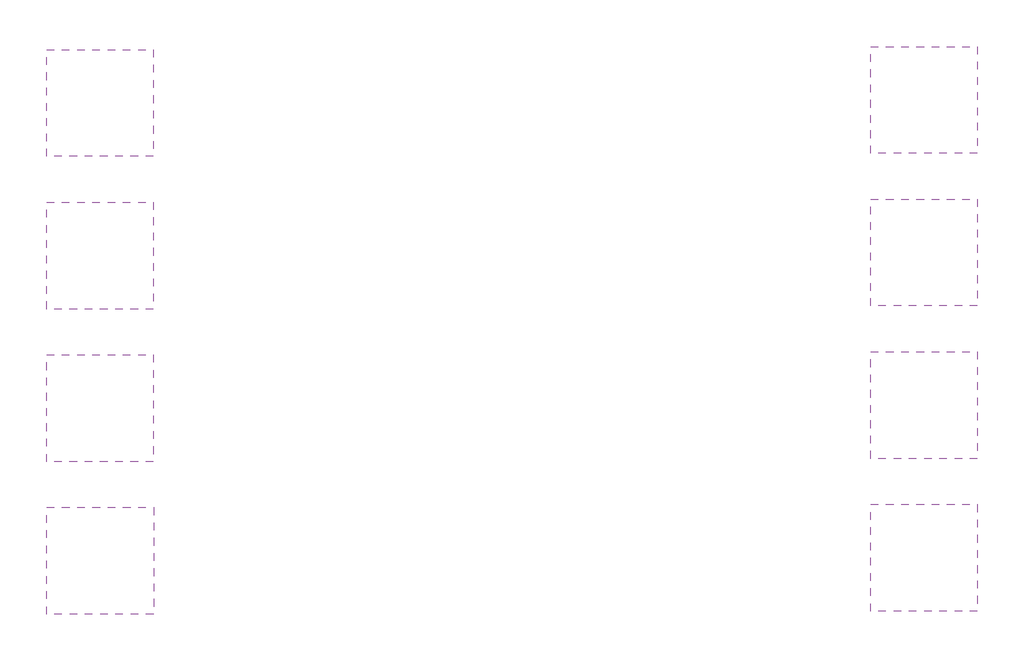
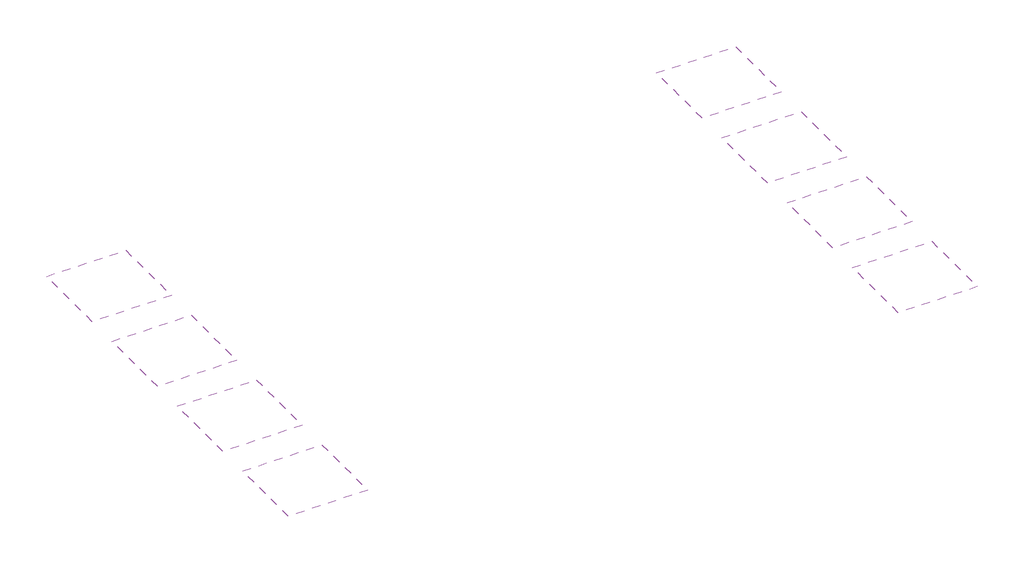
# One storey: 8 coverings.
"""IFC4 building model written with IfcOpenShell, lengths in millimetres."""

from ifc_helpers import new_model, si_unit, frame, origin, place, context, project, spatial, polyline, outline, extrude, element, save

model = new_model("IFC4")

# Units and contexts
model_context = context("Model", 3, world=origin())
ifc_project = project(units=[si_unit("LENGTHUNIT", "METRE", prefix="MILLI")], contexts=[model_context])

# Site, building, storey
site = spatial("IfcSite", under=ifc_project)
building = spatial("IfcBuilding", under=site)
storey = spatial("IfcBuildingStorey", under=building, Name="Gyptone Tile Series Edge B", Elevation=0.0)

# Coverings
placement = place(None, origin())
element("IfcCovering", 1, ObjectType="Gyptone Tile Base 31 (600mm x 600mm)", at=placement, inside=storey, context=model_context, shape_type="SweptSolid", body=[
    extrude(outline(polyline([(1488.7108797, 1750.6340483), (1488.7108797, -5249.3659517), (-5511.2891203, -5249.3659517), (-5511.2891203, 1750.6340483), (1488.7108797, 1750.6340483)])), frame((0.0, 0.0, 2600.0), z_axis=(0.0, 0.0, 1.0), x_axis=(1.0, 0.0, 0.0)), (0.0, 0.0, 1.0), 12.0),
])
element("IfcCovering", 2, ObjectType="Gyptone Tile Line 4 (600mm x 600mm)", at=placement, inside=storey, context=model_context, shape_type="SweptSolid", body=[
    extrude(outline(polyline([(1488.7108797, -8249.3659517), (1488.7108797, -15249.3659517), (-5511.2891203, -15249.3659517), (-5511.2891203, -8249.3659517), (1488.7108797, -8249.3659517)])), frame((0.0, 0.0, 2600.0), z_axis=(0.0, 0.0, 1.0), x_axis=(1.0, 0.0, 0.0)), (0.0, 0.0, 1.0), 12.5),
])
element("IfcCovering", 3, ObjectType="Gyptone Tile Point 11 (600mm x 600mm)", at=placement, inside=storey, context=model_context, shape_type="SweptSolid", body=[
    extrude(outline(polyline([(1488.7108797, -18249.3659517), (1488.7108797, -25249.3659517), (-5511.2891203, -25249.3659517), (-5511.2891203, -18249.3659517), (1488.7108797, -18249.3659517)])), frame((0.0, 0.0, 2600.0), z_axis=(0.0, 0.0, 1.0), x_axis=(1.0, 0.0, 0.0)), (0.0, 0.0, 1.0), 12.5),
])
element("IfcCovering", 4, ObjectType="Gyptone Tile Point 12 (600mm x 600mm)", at=placement, inside=storey, context=model_context, shape_type="SweptSolid", body=[
    extrude(outline(polyline([(1498.3314377, -28248.2011908), (1498.3314377, -35248.2011908), (-5501.6685623, -35248.2011908), (-5501.6685623, -28248.2011908), (1498.3314377, -28248.2011908)])), frame((0.0, 0.0, 2600.0), z_axis=(0.0, 0.0, 1.0), x_axis=(1.0, 0.0, 0.0)), (0.0, 0.0, 1.0), 12.5),
])
element("IfcCovering", 5, ObjectType="Gyptone Tile Sixto 60 (600mm x 600mm)", at=placement, inside=storey, context=model_context, shape_type="SweptSolid", body=[
    extrude(outline(polyline([(55488.7108797, 1950.6340483), (55488.7108797, -5049.3659517), (48488.7108797, -5049.3659517), (48488.7108797, 1950.6340483), (55488.7108797, 1950.6340483)])), frame((0.0, 0.0, 2600.0), z_axis=(0.0, 0.0, 1.0), x_axis=(1.0, 0.0, 0.0)), (0.0, 0.0, 1.0), 12.5),
])
element("IfcCovering", 6, ObjectType="Gyptone Tile Quattro 20 (600mm x 600mm)", at=placement, inside=storey, context=model_context, shape_type="SweptSolid", body=[
    extrude(outline(polyline([(55488.7108797, -8049.3659517), (55488.7108797, -15049.3659517), (48488.7108797, -15049.3659517), (48488.7108797, -8049.3659517), (55488.7108797, -8049.3659517)])), frame((0.0, 0.0, 2600.0), z_axis=(0.0, 0.0, 1.0), x_axis=(1.0, 0.0, 0.0)), (0.0, 0.0, 1.0), 12.5),
])
element("IfcCovering", 7, ObjectType="Gyptone Tile Quattro 22 (600mm x 600mm)", at=placement, inside=storey, context=model_context, shape_type="SweptSolid", body=[
    extrude(outline(polyline([(55488.7108797, -18049.3659517), (55488.7108797, -25049.3659517), (48488.7108797, -25049.3659517), (48488.7108797, -18049.3659517), (55488.7108797, -18049.3659517)])), frame((0.0, 0.0, 2600.0), z_axis=(0.0, 0.0, 1.0), x_axis=(1.0, 0.0, 0.0)), (0.0, 0.0, 1.0), 12.5),
])
element("IfcCovering", 8, ObjectType="Gyptone Tile Quattro 50 (600mm x 600mm)", at=placement, inside=storey, context=model_context, shape_type="SweptSolid", body=[
    extrude(outline(polyline([(55488.7108797, -28049.3659517), (55488.7108797, -35049.3659517), (48488.7108797, -35049.3659517), (48488.7108797, -28049.3659517), (55488.7108797, -28049.3659517)])), frame((0.0, 0.0, 2600.0), z_axis=(0.0, 0.0, 1.0), x_axis=(1.0, 0.0, 0.0)), (0.0, 0.0, 1.0), 12.5),
])

save(model, "model.ifc")
